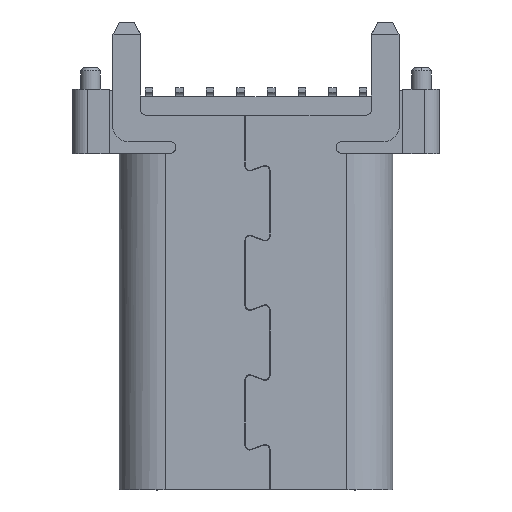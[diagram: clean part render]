
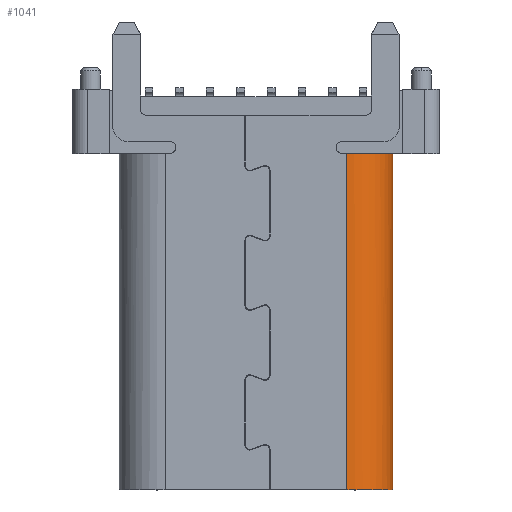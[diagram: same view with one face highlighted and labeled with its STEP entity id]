
A CAD part, front view. The second image highlights one B-rep face of the part: STEP entity #1041.
In plain terms, the highlighted cylindrical face has radius 1.5 mm (diameter 3 mm), a partial arc.
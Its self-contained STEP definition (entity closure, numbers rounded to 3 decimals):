
#78 = CARTESIAN_POINT ( 'NONE',  ( 2.97, -0.08, -18.2 ) ) ;
#217 = AXIS2_PLACEMENT_3D ( 'NONE', #78, #14494, #19369 ) ;
#888 = CIRCLE ( 'NONE', #217, 1.5 ) ;
#1041 = ADVANCED_FACE ( 'NONE', ( #1938 ), #11886, .T. ) ;
#1177 = AXIS2_PLACEMENT_3D ( 'NONE', #3528, #9991, #18158 ) ;
#1534 = DIRECTION ( 'NONE',  ( 1., 0., 0. ) ) ;
#1727 = LINE ( 'NONE', #10936, #6836 ) ;
#1938 = FACE_OUTER_BOUND ( 'NONE', #6421, .T. ) ;
#3083 = EDGE_CURVE ( 'NONE', #7690, #7063, #888, .T. ) ;
#3118 = CARTESIAN_POINT ( 'NONE',  ( 4.47, -0.08, -7.2 ) ) ;
#3349 = ORIENTED_EDGE ( 'NONE', *, *, #12429, .T. ) ;
#3364 = LINE ( 'NONE', #14919, #5180 ) ;
#3528 = CARTESIAN_POINT ( 'NONE',  ( 2.97, -0.08, -42.652 ) ) ;
#5180 = VECTOR ( 'NONE', #8445, 1000. ) ;
#5310 = CARTESIAN_POINT ( 'NONE',  ( 2.97, -0.08, -7.2 ) ) ;
#6421 = EDGE_LOOP ( 'NONE', ( #19411, #3349, #12319, #18149, #10711 ) ) ;
#6836 = VECTOR ( 'NONE', #14553, 1000. ) ;
#7063 = VERTEX_POINT ( 'NONE', #11258 ) ;
#7169 = CARTESIAN_POINT ( 'NONE',  ( 3.896, -1.26, -7.2 ) ) ;
#7690 = VERTEX_POINT ( 'NONE', #17026 ) ;
#8445 = DIRECTION ( 'NONE',  ( 0., 0., 1. ) ) ;
#8542 = VERTEX_POINT ( 'NONE', #3118 ) ;
#9614 = VERTEX_POINT ( 'NONE', #14923 ) ;
#9991 = DIRECTION ( 'NONE',  ( 0., 0., 1. ) ) ;
#10278 = DIRECTION ( 'NONE',  ( 0., 0., -1. ) ) ;
#10711 = ORIENTED_EDGE ( 'NONE', *, *, #3083, .T. ) ;
#10812 = CIRCLE ( 'NONE', #16574, 1.5 ) ;
#10936 = CARTESIAN_POINT ( 'NONE',  ( 4.47, -0.08, -7.2 ) ) ;
#11258 = CARTESIAN_POINT ( 'NONE',  ( 4.47, -0.08, -18.2 ) ) ;
#11778 = AXIS2_PLACEMENT_3D ( 'NONE', #18072, #19668, #1534 ) ;
#11886 = CYLINDRICAL_SURFACE ( 'NONE', #1177, 1.5 ) ;
#12319 = ORIENTED_EDGE ( 'NONE', *, *, #15566, .T. ) ;
#12429 = EDGE_CURVE ( 'NONE', #8542, #17835, #20236, .T. ) ;
#14494 = DIRECTION ( 'NONE',  ( 0., 0., 1. ) ) ;
#14553 = DIRECTION ( 'NONE',  ( 0., 0., -1. ) ) ;
#14919 = CARTESIAN_POINT ( 'NONE',  ( 2.97, -1.58, -18.2 ) ) ;
#14923 = CARTESIAN_POINT ( 'NONE',  ( 2.97, -1.58, -7.2 ) ) ;
#15566 = EDGE_CURVE ( 'NONE', #17835, #9614, #10812, .T. ) ;
#16574 = AXIS2_PLACEMENT_3D ( 'NONE', #5310, #10278, #16956 ) ;
#16956 = DIRECTION ( 'NONE',  ( 0.617, -0.787, 0. ) ) ;
#17026 = CARTESIAN_POINT ( 'NONE',  ( 2.97, -1.58, -18.2 ) ) ;
#17835 = VERTEX_POINT ( 'NONE', #7169 ) ;
#18072 = CARTESIAN_POINT ( 'NONE',  ( 2.97, -0.08, -7.2 ) ) ;
#18149 = ORIENTED_EDGE ( 'NONE', *, *, #20064, .F. ) ;
#18158 = DIRECTION ( 'NONE',  ( 0., -1., 0. ) ) ;
#19168 = EDGE_CURVE ( 'NONE', #8542, #7063, #1727, .T. ) ;
#19369 = DIRECTION ( 'NONE',  ( 0., -1., 0. ) ) ;
#19411 = ORIENTED_EDGE ( 'NONE', *, *, #19168, .F. ) ;
#19668 = DIRECTION ( 'NONE',  ( 0., 0., -1. ) ) ;
#20064 = EDGE_CURVE ( 'NONE', #7690, #9614, #3364, .T. ) ;
#20236 = CIRCLE ( 'NONE', #11778, 1.5 ) ;
